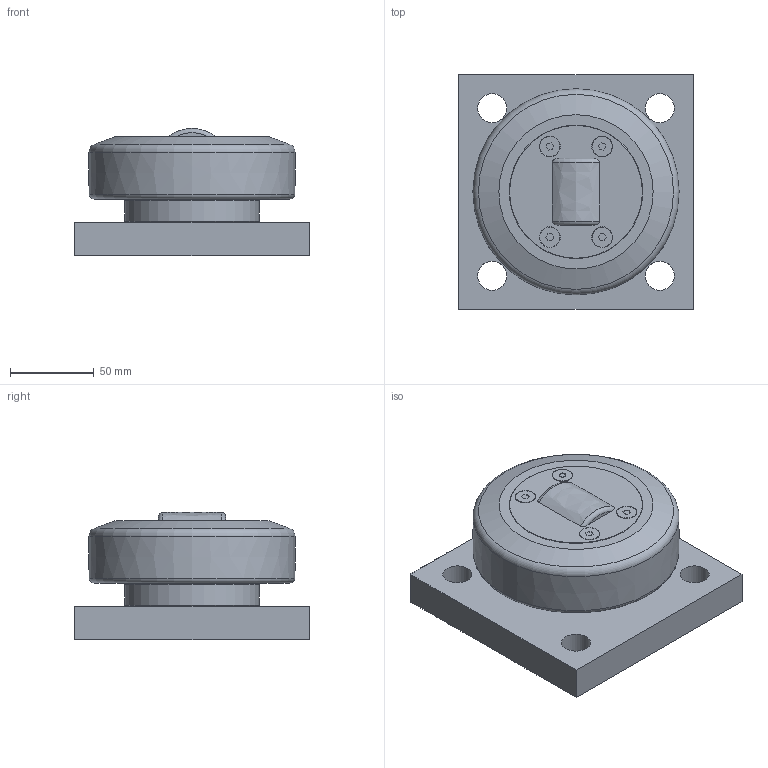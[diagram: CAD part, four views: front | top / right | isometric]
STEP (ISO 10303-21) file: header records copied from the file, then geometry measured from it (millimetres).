
FILE_DESCRIPTION(/* description */ ('-','CAx-IF Rec.Pracs.---Representation and Presentation of Product Manufacturing Information (PMI)---4.0---2014-10-13'),/* implementation_level */ '2;1');
FILE_NAME(/* name */ 'c:\temp\ee8123a7-0194-4883-8324-7a65757d072d\d03c5b65-a5ff-406f-892e-7ae02f75ccdd.stp',/* time_stamp */ '2020-04-01T16:08:20+02:00',/* author */ ('-'),/* organization */ ('NTI CADcenter A/S'),/* preprocessor_version */ 'ST-DEVELOPER v18',/* originating_system */ 'Autodesk Inventor 2020',/* authorisation */ '-');
FILE_SCHEMA (('AP242_MANAGED_MODEL_BASED_3D_ENGINEERING_MIM_LF { 1 0 10303 442 1 1 4 }'));
Length unit declared in the file: millimetre
Products named in the file (1): HTR 120.0200 BQ1000_Kontur
Bounding box: 140 x 140 x 76 mm (x, y, z)
Volume: 869392.9 mm3; surface area: 82244.5 mm2
Topology: 1 solids, 1 shells, 68 faces, 175 edges, 122 vertices
Faces by surface type: plane 44, cylinder 10, cone 8, torus 4, bspline 2
Full cylindrical faces by diameter (mm): 12 x4, 17.294 x4, 80 x2
Entity records: 2229 total; most frequent: CARTESIAN_POINT 446, DIRECTION 368, ORIENTED_EDGE 350, EDGE_CURVE 175, AXIS2_PLACEMENT_3D 132, VERTEX_POINT 122, LINE 104, VECTOR 104
